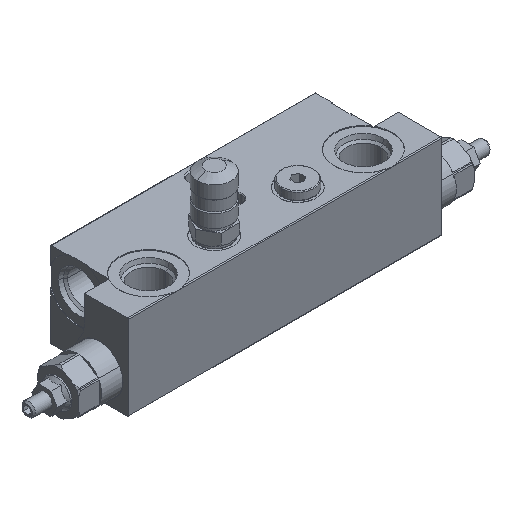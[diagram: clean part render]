
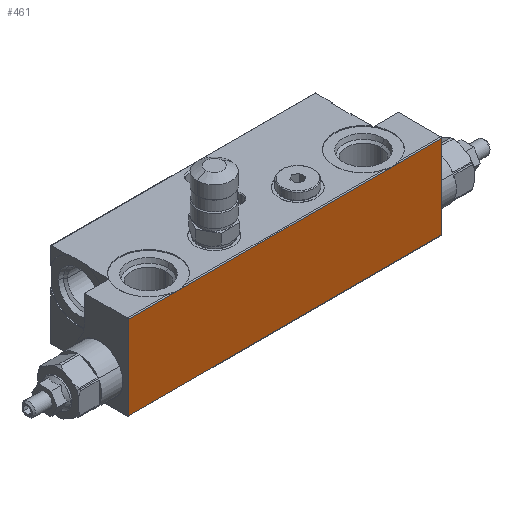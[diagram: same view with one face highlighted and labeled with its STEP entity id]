
A CAD part, isometric view. The second image highlights one B-rep face of the part: STEP entity #461.
In plain terms, the highlighted planar face has unit normal (0, -1, 0).
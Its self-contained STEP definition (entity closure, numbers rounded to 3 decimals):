
#23 = EDGE_CURVE ( 'NONE', #7075, #4518, #115, .T. ) ;
#39 = VECTOR ( 'NONE', #4361, 1000. ) ;
#115 = LINE ( 'NONE', #6941, #3604 ) ;
#461 = ADVANCED_FACE ( 'NONE', ( #3390 ), #1407, .T. ) ;
#487 = LINE ( 'NONE', #1108, #3767 ) ;
#676 = DIRECTION ( 'NONE',  ( 0., 0., 1. ) ) ;
#749 = VECTOR ( 'NONE', #5894, 1000. ) ;
#810 = EDGE_LOOP ( 'NONE', ( #2044, #6598, #4238, #5759, #6833, #3315 ) ) ;
#830 = CARTESIAN_POINT ( 'NONE',  ( 92., -30., 24.5 ) ) ;
#986 = CARTESIAN_POINT ( 'NONE',  ( 63., -30., 24.5 ) ) ;
#994 = VERTEX_POINT ( 'NONE', #3528 ) ;
#1108 = CARTESIAN_POINT ( 'NONE',  ( 92., -30., 25. ) ) ;
#1201 = VECTOR ( 'NONE', #3174, 1000. ) ;
#1407 = PLANE ( 'NONE',  #4798 ) ;
#1773 = DIRECTION ( 'NONE',  ( 0., 0., -1. ) ) ;
#1774 = VERTEX_POINT ( 'NONE', #830 ) ;
#1901 = CARTESIAN_POINT ( 'NONE',  ( -92., -30., 24.5 ) ) ;
#2044 = ORIENTED_EDGE ( 'NONE', *, *, #23, .F. ) ;
#2573 = CARTESIAN_POINT ( 'NONE',  ( -92., -30., 24.5 ) ) ;
#2694 = DIRECTION ( 'NONE',  ( 0., -1., 0. ) ) ;
#2988 = CARTESIAN_POINT ( 'NONE',  ( 92., -30., -24.5 ) ) ;
#3085 = EDGE_CURVE ( 'NONE', #1774, #7785, #487, .T. ) ;
#3174 = DIRECTION ( 'NONE',  ( -1., 0., 0. ) ) ;
#3315 = ORIENTED_EDGE ( 'NONE', *, *, #6652, .T. ) ;
#3328 = EDGE_CURVE ( 'NONE', #7075, #7785, #8143, .T. ) ;
#3352 = CARTESIAN_POINT ( 'NONE',  ( 92., -30., -25. ) ) ;
#3390 = FACE_OUTER_BOUND ( 'NONE', #810, .T. ) ;
#3528 = CARTESIAN_POINT ( 'NONE',  ( -63., -30., 24.5 ) ) ;
#3604 = VECTOR ( 'NONE', #676, 1000. ) ;
#3662 = CARTESIAN_POINT ( 'NONE',  ( 92., -30., -24.5 ) ) ;
#3767 = VECTOR ( 'NONE', #1773, 1000. ) ;
#3959 = VECTOR ( 'NONE', #6184, 1000. ) ;
#4238 = ORIENTED_EDGE ( 'NONE', *, *, #3085, .F. ) ;
#4361 = DIRECTION ( 'NONE',  ( 1., 0., 0. ) ) ;
#4514 = LINE ( 'NONE', #7669, #749 ) ;
#4518 = VERTEX_POINT ( 'NONE', #6620 ) ;
#4726 = VERTEX_POINT ( 'NONE', #986 ) ;
#4798 = AXIS2_PLACEMENT_3D ( 'NONE', #3352, #2694, #5966 ) ;
#4918 = LINE ( 'NONE', #1901, #1201 ) ;
#5759 = ORIENTED_EDGE ( 'NONE', *, *, #8058, .T. ) ;
#5894 = DIRECTION ( 'NONE',  ( -1., 0., 0. ) ) ;
#5966 = DIRECTION ( 'NONE',  ( 0., 0., -1. ) ) ;
#6184 = DIRECTION ( 'NONE',  ( -1., 0., 0. ) ) ;
#6598 = ORIENTED_EDGE ( 'NONE', *, *, #3328, .T. ) ;
#6620 = CARTESIAN_POINT ( 'NONE',  ( -92., -30., 24.5 ) ) ;
#6652 = EDGE_CURVE ( 'NONE', #994, #4518, #6968, .T. ) ;
#6833 = ORIENTED_EDGE ( 'NONE', *, *, #7148, .T. ) ;
#6919 = CARTESIAN_POINT ( 'NONE',  ( -92., -30., -24.5 ) ) ;
#6941 = CARTESIAN_POINT ( 'NONE',  ( -92., -30., 25. ) ) ;
#6968 = LINE ( 'NONE', #2573, #3959 ) ;
#7075 = VERTEX_POINT ( 'NONE', #6919 ) ;
#7148 = EDGE_CURVE ( 'NONE', #4726, #994, #4918, .T. ) ;
#7669 = CARTESIAN_POINT ( 'NONE',  ( -92., -30., 24.5 ) ) ;
#7785 = VERTEX_POINT ( 'NONE', #2988 ) ;
#8058 = EDGE_CURVE ( 'NONE', #1774, #4726, #4514, .T. ) ;
#8143 = LINE ( 'NONE', #3662, #39 ) ;
